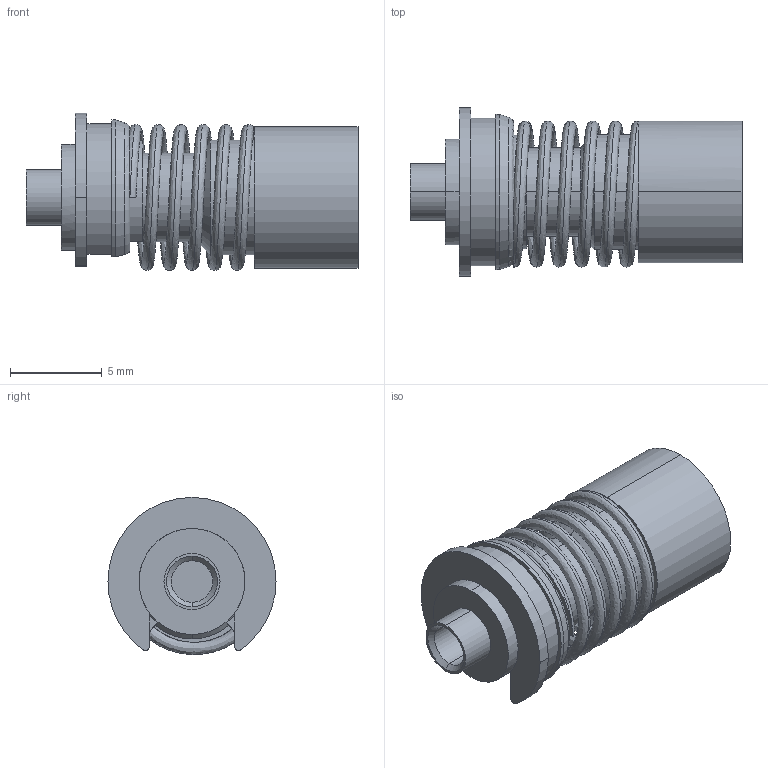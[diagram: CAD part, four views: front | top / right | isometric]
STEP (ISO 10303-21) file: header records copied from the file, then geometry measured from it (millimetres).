
FILE_DESCRIPTION (( 'STEP AP214' ), '1' );
FILE_NAME ('1740-6001.STEP', '2016-04-18T17:17:33', ( '' ), ( '' ), 'SwSTEP 2.0', 'SolidWorks 2015', '' );
FILE_SCHEMA (( 'AUTOMOTIVE_DESIGN' ));
Length unit declared in the file: inch
Products named in the file (1): 1740-6001
Bounding box: 18.06 x 9.14 x 8.55 mm (x, y, z)
Volume: 438.9 mm3; surface area: 1160.9 mm2
Topology: 1 solids, 1 shells, 524 faces, 1650 edges, 1093 vertices
Faces by surface type: torus 212, cylinder 161, plane 54, bspline 49, cone 48
Entity records: 30061 total; most frequent: CARTESIAN_POINT 9913, ORIENTED_EDGE 3300, DIRECTION 2246, EDGE_CURVE 1650, VERTEX_POINT 1093, AXIS2_PLACEMENT_3D 966, B_SPLINE_CURVE_WITH_KNOTS 842, EDGE_LOOP 535
